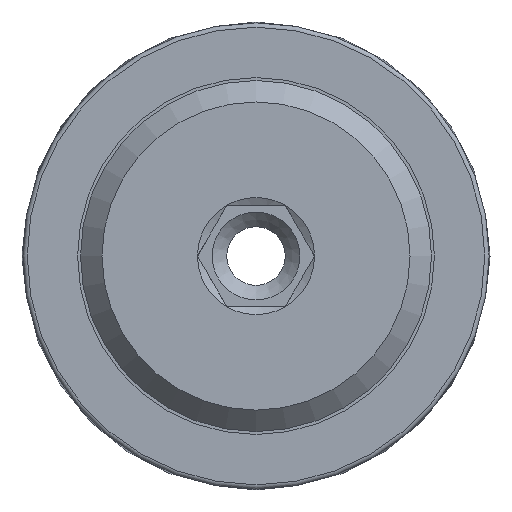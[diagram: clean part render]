
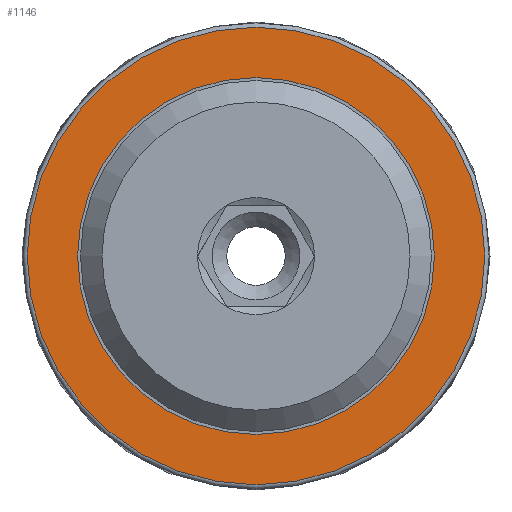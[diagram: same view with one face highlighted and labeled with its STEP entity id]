
A CAD part, front view. The second image highlights one B-rep face of the part: STEP entity #1146.
In plain terms, the highlighted planar face has unit normal (0, -1, 0).
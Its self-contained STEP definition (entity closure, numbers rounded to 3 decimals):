
#151=FACE_BOUND('',#458,.T.);
#293=PLANE('',#1409);
#363=FACE_OUTER_BOUND('',#457,.T.);
#457=EDGE_LOOP('',(#1005));
#458=EDGE_LOOP('',(#1006));
#540=CIRCLE('',#1408,7.821);
#541=CIRCLE('',#1410,6.1);
#634=VERTEX_POINT('',#2221);
#635=VERTEX_POINT('',#2225);
#762=EDGE_CURVE('',#634,#634,#540,.T.);
#763=EDGE_CURVE('',#635,#635,#541,.T.);
#1005=ORIENTED_EDGE('',*,*,#762,.F.);
#1006=ORIENTED_EDGE('',*,*,#763,.T.);
#1146=ADVANCED_FACE('',(#363,#151),#293,.T.);
#1408=AXIS2_PLACEMENT_3D('',#2223,#1736,#1737);
#1409=AXIS2_PLACEMENT_3D('',#2224,#1738,#1739);
#1410=AXIS2_PLACEMENT_3D('',#2226,#1740,#1741);
#1736=DIRECTION('center_axis',(0.,1.,0.));
#1737=DIRECTION('ref_axis',(0.,0.,-1.));
#1738=DIRECTION('center_axis',(0.,-1.,0.));
#1739=DIRECTION('ref_axis',(0.,0.,-1.));
#1740=DIRECTION('center_axis',(0.,1.,0.));
#1741=DIRECTION('ref_axis',(1.,0.,0.));
#2221=CARTESIAN_POINT('',(0.,0.4,-7.821));
#2223=CARTESIAN_POINT('Origin',(0.,0.4,0.));
#2224=CARTESIAN_POINT('Origin',(0.,0.4,7.97));
#2225=CARTESIAN_POINT('',(0.,0.4,-6.1));
#2226=CARTESIAN_POINT('Origin',(0.,0.4,0.));
